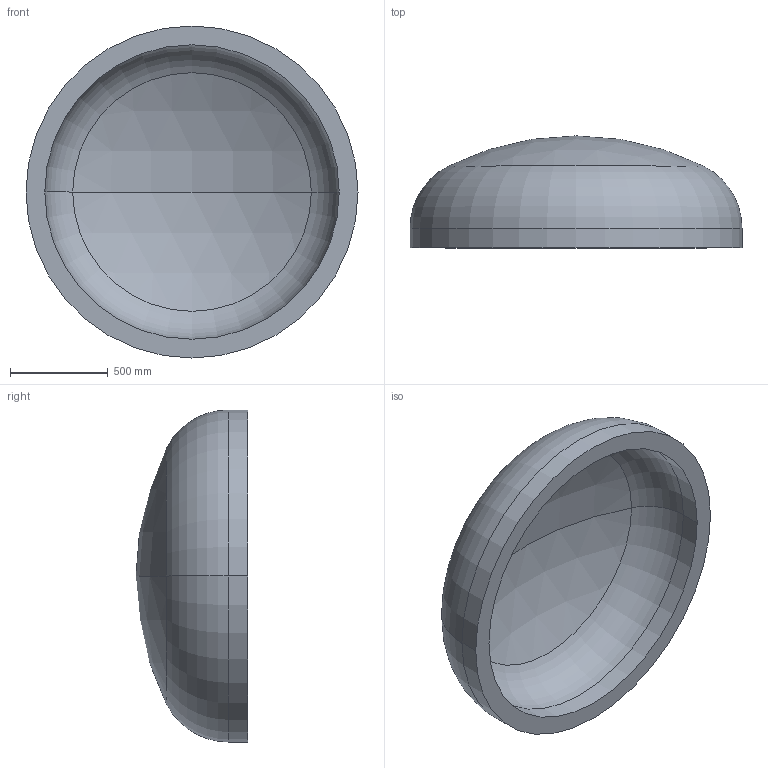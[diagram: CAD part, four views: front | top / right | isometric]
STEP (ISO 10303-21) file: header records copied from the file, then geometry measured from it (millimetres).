
FILE_DESCRIPTION (( 'STEP AP203' ), '1' );
FILE_NAME ('DIN 28013 Korbbogenform_-_Boden DIN 28013 - 1700 x 100 - I - s=96.step', '2016-07-01T12:06:53', ( '' ), ( '' ), 'SwSTEP 2.0', 'SolidWorks 2013', '' );
FILE_SCHEMA (( 'CONFIG_CONTROL_DESIGN' ));
Length unit declared in the file: millimetre
Products named in the file (1): DIN 28013 Korbbogenform_-_Boden DIN 28013 - 1700 x 100 - I - s=96
Bounding box: 1700 x 573.17 x 1700 mm (x, y, z)
Volume: 328750073 mm3; surface area: 7352015.1 mm2
Topology: 1 solids, 1 shells, 13 faces, 24 edges, 14 vertices
Faces by surface type: torus 4, cylinder 4, sphere 4, plane 1
Entity records: 407 total; most frequent: DIRECTION 72, CARTESIAN_POINT 52, ORIENTED_EDGE 48, AXIS2_PLACEMENT_3D 34, EDGE_CURVE 24, CIRCLE 20, EDGE_LOOP 14, VERTEX_POINT 14
